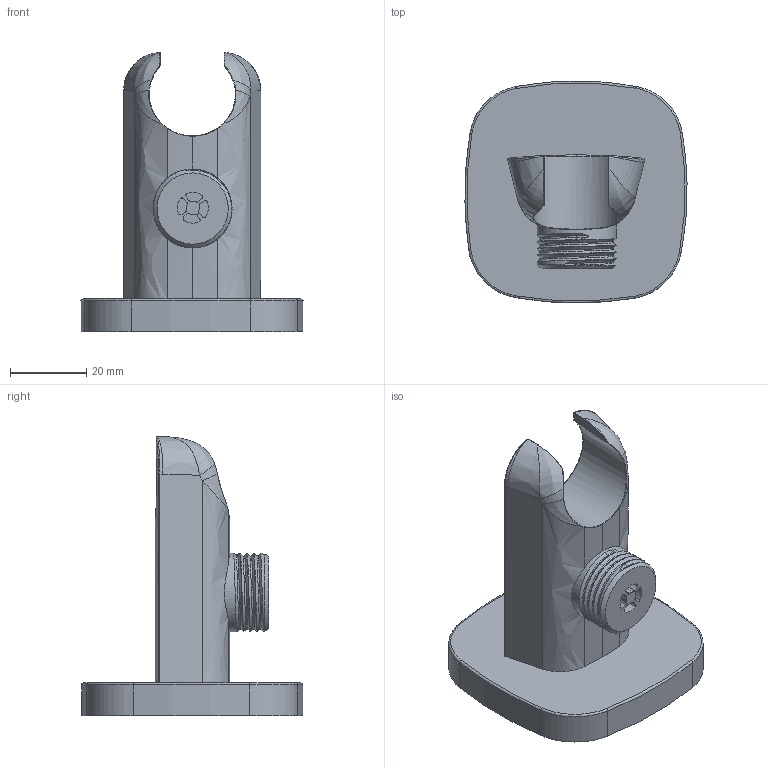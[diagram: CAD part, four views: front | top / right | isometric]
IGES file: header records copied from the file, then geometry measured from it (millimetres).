
Global section: file name: 6b1ffb71-ae69-4442-a188-00e4b1de57de.zip; native system: unknown; preprocessor: unknown; author: unknown; organization: unknown; date: 20191214.163547; units: millimetre
Bounding box: 58.31 x 58.18 x 73.3 mm (x, y, z)
Volume: 57991.7 mm3; surface area: 14450.8 mm2
Topology: 1 solids, 1 shells, 129 faces, 319 edges, 193 vertices
Faces by surface type: bspline 129
